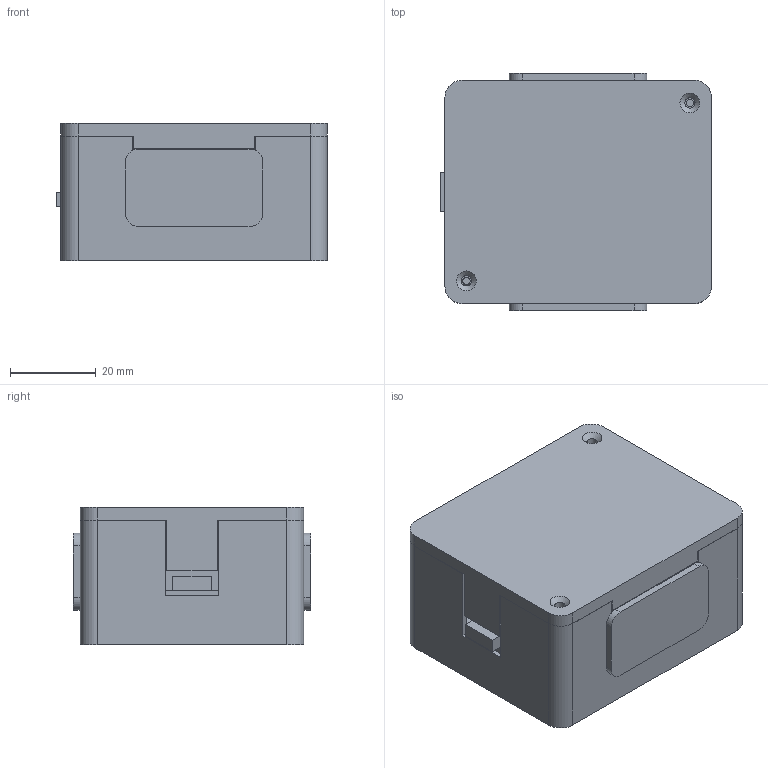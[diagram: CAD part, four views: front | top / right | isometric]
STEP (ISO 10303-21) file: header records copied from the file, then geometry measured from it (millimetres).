
FILE_DESCRIPTION(('Open CASCADE Model'),'2;1');
FILE_NAME('Open CASCADE Shape Model','2026-11-08T19:31:46',('Author'),( 'Open CASCADE'),'Open CASCADE STEP processor 7.8','Open CASCADE 7.8' ,'Unknown');
FILE_SCHEMA(('AUTOMOTIVE_DESIGN { 1 0 10303 214 1 1 1 1 }'));
Length unit declared in the file: millimetre
Products named in the file (11): Enveloppes_nominales_non_imprimables; socle; couvercle; support_LED_avant; support_LED_arriere; diffuseur_avant; diffuseur_arriere; carte_nominale; USB_nominal; ruban_LED_avant_nominal; ruban_LED_arriere_nominal
Assembly tree (10 placements, depth 2):
  Enveloppes_nominales_non_imprimables
    socle
    couvercle
    support_LED_avant
    support_LED_arriere
    diffuseur_avant
    diffuseur_arriere
    carte_nominale
    USB_nominal
    ruban_LED_avant_nominal
    ruban_LED_arriere_nominal
Bounding box: 63 x 55.2 x 32 mm (x, y, z)
Volume: 37187.5 mm3; surface area: 38970 mm2
Topology: 10 solids, 10 shells, 362 faces, 948 edges, 630 vertices
Faces by surface type: plane 282, cylinder 78, cone 2
Full cylindrical faces by diameter (mm): 1.7 x4, 2 x2, 2.4 x2, 5 x2
Entity records: 23310 total; most frequent: CARTESIAN_POINT 4428, DIRECTION 3356, LINE 2163, VECTOR 2163, ORIENTED_EDGE 1896, PCURVE 1896, DEFINITIONAL_REPRESENTATION 1896, EDGE_CURVE 948
